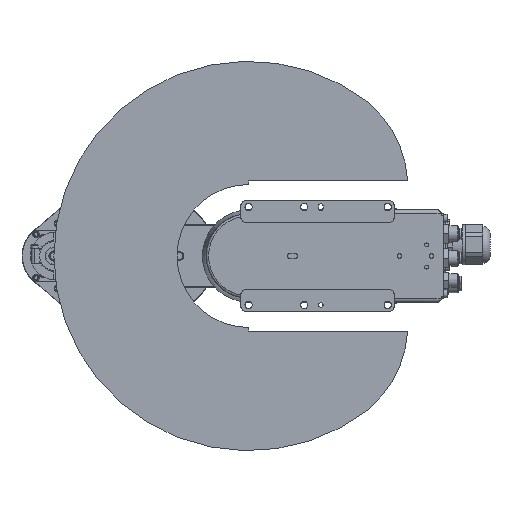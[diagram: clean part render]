
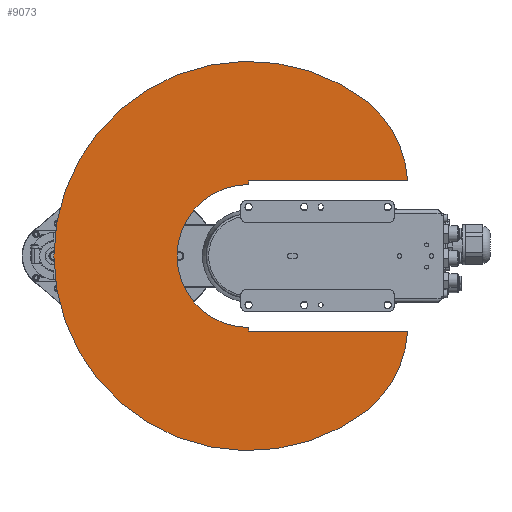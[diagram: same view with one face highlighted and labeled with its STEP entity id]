
A CAD part, front view. The second image highlights one B-rep face of the part: STEP entity #9073.
In plain terms, the highlighted planar face has unit normal (0, -1, 0).
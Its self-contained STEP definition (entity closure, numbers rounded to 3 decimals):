
#292 = DIRECTION ( 'NONE',  ( 0., 1., 0. ) ) ;
#936 = CARTESIAN_POINT ( 'NONE',  ( 0., 0., 0. ) ) ;
#1018 = PLANE ( 'NONE',  #47723 ) ;
#1459 = EDGE_CURVE ( 'NONE', #43802, #39136, #64685, .T. ) ;
#2268 = CARTESIAN_POINT ( 'NONE',  ( -67.5, 0., 143. ) ) ;
#2774 = VERTEX_POINT ( 'NONE', #43485 ) ;
#2848 = VERTEX_POINT ( 'NONE', #2268 ) ;
#3073 = CIRCLE ( 'NONE', #40946, 175. ) ;
#3074 = CARTESIAN_POINT ( 'NONE',  ( 64.3, 0., 0. ) ) ;
#4698 = DIRECTION ( 'NONE',  ( 1., 0., 0. ) ) ;
#5485 = EDGE_CURVE ( 'NONE', #35044, #39136, #8766, .T. ) ;
#5638 = CARTESIAN_POINT ( 'NONE',  ( 61.436, 0., 43.018 ) ) ;
#6274 = ORIENTED_EDGE ( 'NONE', *, *, #68428, .F. ) ;
#7028 = CIRCLE ( 'NONE', #14138, 64.3 ) ;
#8246 = VECTOR ( 'NONE', #10236, 1000. ) ;
#8766 = CIRCLE ( 'NONE', #32455, 64.3 ) ;
#9073 = ADVANCED_FACE ( 'NONE', ( #22574 ), #1018, .F. ) ;
#10236 = DIRECTION ( 'NONE',  ( 1., 0., 0. ) ) ;
#11194 = DIRECTION ( 'NONE',  ( 0., 1., 0. ) ) ;
#12481 = ORIENTED_EDGE ( 'NONE', *, *, #34231, .F. ) ;
#13040 = VERTEX_POINT ( 'NONE', #42723 ) ;
#13988 = DIRECTION ( 'NONE',  ( 0., 1., 0. ) ) ;
#14029 = EDGE_CURVE ( 'NONE', #2848, #43802, #21276, .T. ) ;
#14138 = AXIS2_PLACEMENT_3D ( 'NONE', #15444, #67114, #4698 ) ;
#14267 = EDGE_CURVE ( 'NONE', #13040, #39143, #36610, .T. ) ;
#14464 = EDGE_CURVE ( 'NONE', #18147, #2774, #22565, .T. ) ;
#15444 = CARTESIAN_POINT ( 'NONE',  ( 0., 0., 0. ) ) ;
#18147 = VERTEX_POINT ( 'NONE', #73559 ) ;
#19307 = ORIENTED_EDGE ( 'NONE', *, *, #14464, .F. ) ;
#19941 = CARTESIAN_POINT ( 'NONE',  ( -67.5, 0., 0. ) ) ;
#21276 = LINE ( 'NONE', #54730, #30615 ) ;
#21731 = DIRECTION ( 'NONE',  ( 0., 1., 0. ) ) ;
#22565 = LINE ( 'NONE', #73534, #41310 ) ;
#22574 = FACE_OUTER_BOUND ( 'NONE', #70794, .T. ) ;
#23581 = EDGE_CURVE ( 'NONE', #27459, #35044, #7028, .T. ) ;
#23608 = EDGE_CURVE ( 'NONE', #27459, #18147, #26608, .T. ) ;
#23670 = CARTESIAN_POINT ( 'NONE',  ( 0., 0., 0. ) ) ;
#23945 = DIRECTION ( 'NONE',  ( 1., 0., 0. ) ) ;
#25883 = CARTESIAN_POINT ( 'NONE',  ( -61.436, 0., 43.018 ) ) ;
#26608 = LINE ( 'NONE', #72354, #8246 ) ;
#26736 = ORIENTED_EDGE ( 'NONE', *, *, #14029, .F. ) ;
#27105 = ORIENTED_EDGE ( 'NONE', *, *, #23581, .T. ) ;
#27459 = VERTEX_POINT ( 'NONE', #3074 ) ;
#29733 = CARTESIAN_POINT ( 'NONE',  ( 0., 0., 0. ) ) ;
#30615 = VECTOR ( 'NONE', #59964, 1000. ) ;
#31060 = DIRECTION ( 'NONE',  ( 1., 0., 0. ) ) ;
#31220 = AXIS2_PLACEMENT_3D ( 'NONE', #5638, #11194, #50270 ) ;
#32455 = AXIS2_PLACEMENT_3D ( 'NONE', #936, #34741, #23945 ) ;
#34231 = EDGE_CURVE ( 'NONE', #2774, #13040, #54969, .T. ) ;
#34741 = DIRECTION ( 'NONE',  ( 0., 1., 0. ) ) ;
#35044 = VERTEX_POINT ( 'NONE', #48005 ) ;
#35142 = ORIENTED_EDGE ( 'NONE', *, *, #5485, .T. ) ;
#36610 = CIRCLE ( 'NONE', #67469, 175. ) ;
#36873 = VERTEX_POINT ( 'NONE', #46925 ) ;
#39136 = VERTEX_POINT ( 'NONE', #65129 ) ;
#39143 = VERTEX_POINT ( 'NONE', #70358 ) ;
#40946 = AXIS2_PLACEMENT_3D ( 'NONE', #49280, #21731, #66324 ) ;
#41310 = VECTOR ( 'NONE', #45212, 1000. ) ;
#42723 = CARTESIAN_POINT ( 'NONE',  ( 138.13, 0., 107.448 ) ) ;
#42743 = VECTOR ( 'NONE', #53183, 1000. ) ;
#43485 = CARTESIAN_POINT ( 'NONE',  ( 67.5, 0., 143. ) ) ;
#43802 = VERTEX_POINT ( 'NONE', #19941 ) ;
#45212 = DIRECTION ( 'NONE',  ( 0., 0., 1. ) ) ;
#46925 = CARTESIAN_POINT ( 'NONE',  ( -138.13, 0., 107.448 ) ) ;
#47723 = AXIS2_PLACEMENT_3D ( 'NONE', #23670, #292, #62708 ) ;
#48005 = CARTESIAN_POINT ( 'NONE',  ( 0., 0., -64.3 ) ) ;
#49280 = CARTESIAN_POINT ( 'NONE',  ( 0., 0., 0. ) ) ;
#50270 = DIRECTION ( 'NONE',  ( 1., 0., 0. ) ) ;
#52270 = EDGE_CURVE ( 'NONE', #39143, #36873, #3073, .T. ) ;
#53183 = DIRECTION ( 'NONE',  ( 1., 0., 0. ) ) ;
#54730 = CARTESIAN_POINT ( 'NONE',  ( -67.5, 0., 143. ) ) ;
#54969 = CIRCLE ( 'NONE', #31220, 100.165 ) ;
#56471 = ORIENTED_EDGE ( 'NONE', *, *, #14267, .F. ) ;
#59964 = DIRECTION ( 'NONE',  ( 0., 0., -1. ) ) ;
#60407 = AXIS2_PLACEMENT_3D ( 'NONE', #25883, #13988, #31060 ) ;
#60730 = ORIENTED_EDGE ( 'NONE', *, *, #23608, .F. ) ;
#62708 = DIRECTION ( 'NONE',  ( 1., 0., 0. ) ) ;
#63038 = ORIENTED_EDGE ( 'NONE', *, *, #52270, .F. ) ;
#63954 = CIRCLE ( 'NONE', #60407, 100.165 ) ;
#64321 = DIRECTION ( 'NONE',  ( 1., 0., 0. ) ) ;
#64685 = LINE ( 'NONE', #70258, #42743 ) ;
#65049 = DIRECTION ( 'NONE',  ( 0., 1., 0. ) ) ;
#65129 = CARTESIAN_POINT ( 'NONE',  ( -64.3, 0., 0. ) ) ;
#66324 = DIRECTION ( 'NONE',  ( 1., 0., 0. ) ) ;
#67114 = DIRECTION ( 'NONE',  ( 0., 1., 0. ) ) ;
#67469 = AXIS2_PLACEMENT_3D ( 'NONE', #29733, #65049, #64321 ) ;
#68428 = EDGE_CURVE ( 'NONE', #36873, #2848, #63954, .T. ) ;
#69672 = ORIENTED_EDGE ( 'NONE', *, *, #1459, .F. ) ;
#70258 = CARTESIAN_POINT ( 'NONE',  ( -67.5, 0., 0. ) ) ;
#70358 = CARTESIAN_POINT ( 'NONE',  ( 0., 0., -175. ) ) ;
#70794 = EDGE_LOOP ( 'NONE', ( #56471, #12481, #19307, #60730, #27105, #35142, #69672, #26736, #6274, #63038 ) ) ;
#72354 = CARTESIAN_POINT ( 'NONE',  ( 64.3, 0., 0. ) ) ;
#73534 = CARTESIAN_POINT ( 'NONE',  ( 67.5, 0., 0. ) ) ;
#73559 = CARTESIAN_POINT ( 'NONE',  ( 67.5, 0., 0. ) ) ;
